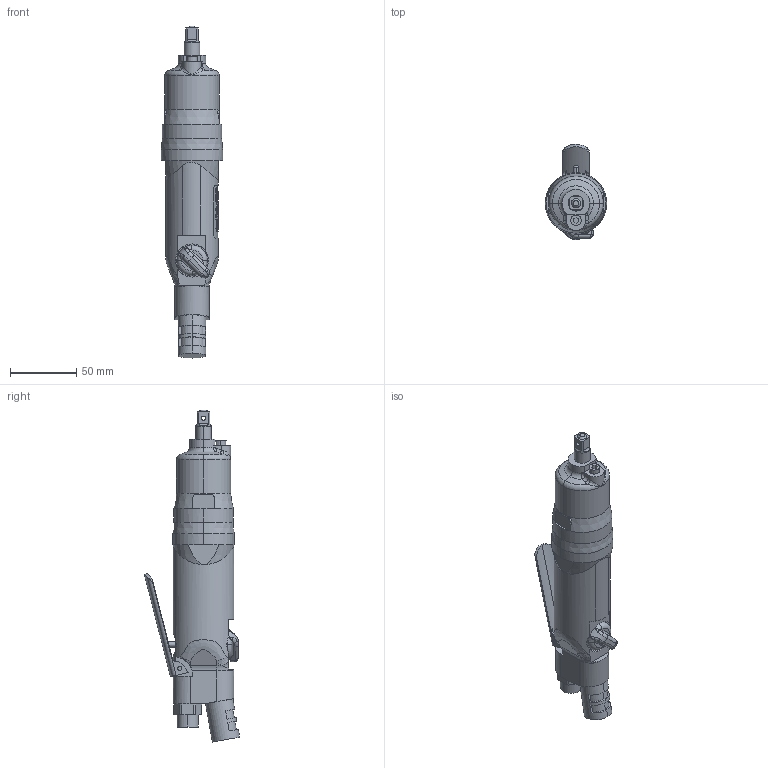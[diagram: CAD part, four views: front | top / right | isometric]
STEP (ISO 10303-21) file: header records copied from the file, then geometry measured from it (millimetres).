
FILE_DESCRIPTION (( 'STEP AP203' ), '1' );
FILE_NAME ('UX-612S.STEP', '2006-12-04T00:14:46', ( ' ' ), ( ' ' ), 'SwSTEP 2.0', 'SolidWorks 2003240', '' );
FILE_SCHEMA (( 'CONFIG_CONTROL_DESIGN' ));
Length unit declared in the file: millimetre
Products named in the file (7): 1783198_UX-612S_蹬怮椔; 1784398_UX-612S_蹬怮椔; UX-612S; 1790250_UX-612S_蹬怮椔; 1802122_UX-612S_蹬怮椔; PIN_UX-612S_蹬怮椔; 5001071_UX-612S_蹬怮椔
Assembly tree (6 placements, depth 2):
  UX-612S
    5001071_UX-612S_蹬怮椔
    1790250_UX-612S_蹬怮椔
    1783198_UX-612S_蹬怮椔
    1784398_UX-612S_蹬怮椔
    PIN_UX-612S_蹬怮椔
    1802122_UX-612S_蹬怮椔
Bounding box: 46.5 x 72.07 x 251.29 mm (x, y, z)
Volume: 280182 mm3; surface area: 45283.8 mm2
Topology: 6 solids, 6 shells, 671 faces, 1771 edges, 1150 vertices
Faces by surface type: plane 328, cylinder 181, bspline 121, cone 21, torus 18, sphere 2
Entity records: 43935 total; most frequent: CARTESIAN_POINT 27983, ORIENTED_EDGE 3522, DIRECTION 2679, EDGE_CURVE 1761, VERTEX_POINT 1150, AXIS2_PLACEMENT_3D 947, LINE 785, VECTOR 785
